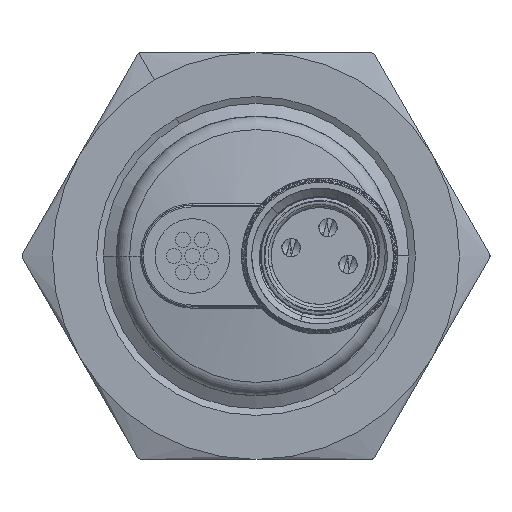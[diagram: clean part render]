
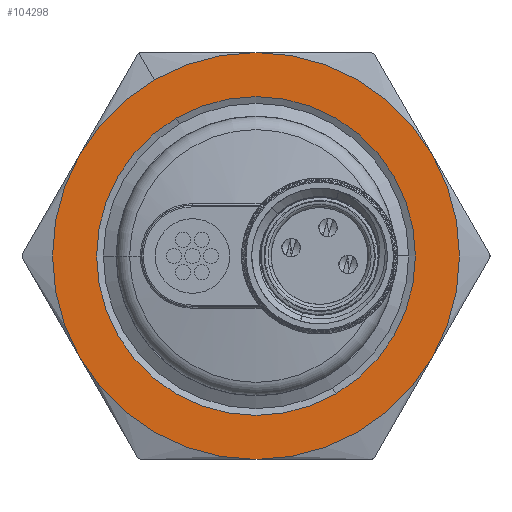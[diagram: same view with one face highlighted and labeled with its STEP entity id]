
A CAD part, left-side view. The second image highlights one B-rep face of the part: STEP entity #104298.
In plain terms, the highlighted planar face has unit normal (-1, 0, 0) as drawn and (0, 0, -1) by its records, which use the part's own axes.
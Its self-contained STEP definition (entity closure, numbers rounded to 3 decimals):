
#3016 = DIRECTION ( 'NONE',  ( -1., 0., 0. ) ) ;
#6669 = EDGE_CURVE ( 'NONE', #11871, #94911, #82048, .T. ) ;
#7314 = EDGE_CURVE ( 'NONE', #118412, #26884, #80630, .T. ) ;
#11611 = ORIENTED_EDGE ( 'NONE', *, *, #50794, .F. ) ;
#11757 = DIRECTION ( 'NONE',  ( -1., 0., 0. ) ) ;
#11871 = VERTEX_POINT ( 'NONE', #118198 ) ;
#12838 = CIRCLE ( 'NONE', #66332, 12. ) ;
#16561 = DIRECTION ( 'NONE',  ( -1., 0., 0. ) ) ;
#18160 = VERTEX_POINT ( 'NONE', #35797 ) ;
#19185 = FACE_OUTER_BOUND ( 'NONE', #49587, .T. ) ;
#19859 = CARTESIAN_POINT ( 'NONE',  ( 0., 0., 0. ) ) ;
#22875 = VERTEX_POINT ( 'NONE', #51895 ) ;
#23723 = DIRECTION ( 'NONE',  ( 0., 0., 1. ) ) ;
#25507 = DIRECTION ( 'NONE',  ( -1., 0., 0. ) ) ;
#26540 = EDGE_CURVE ( 'NONE', #100205, #45804, #126422, .T. ) ;
#26884 = VERTEX_POINT ( 'NONE', #74448 ) ;
#27134 = AXIS2_PLACEMENT_3D ( 'NONE', #19859, #64241, #109367 ) ;
#27319 = AXIS2_PLACEMENT_3D ( 'NONE', #100860, #23723, #68109 ) ;
#28941 = EDGE_LOOP ( 'NONE', ( #64994, #41458 ) ) ;
#29608 = CARTESIAN_POINT ( 'NONE',  ( 9.4, 0., 0. ) ) ;
#29619 = CIRCLE ( 'NONE', #27319, 12. ) ;
#32592 = ORIENTED_EDGE ( 'NONE', *, *, #131784, .F. ) ;
#32822 = AXIS2_PLACEMENT_3D ( 'NONE', #114721, #60739, #73177 ) ;
#32996 = FACE_BOUND ( 'NONE', #28941, .T. ) ;
#34325 = DIRECTION ( 'NONE',  ( 0., 0., 1. ) ) ;
#35797 = CARTESIAN_POINT ( 'NONE',  ( -10.392, 6., 0. ) ) ;
#41458 = ORIENTED_EDGE ( 'NONE', *, *, #99194, .F. ) ;
#45804 = VERTEX_POINT ( 'NONE', #118950 ) ;
#46956 = CARTESIAN_POINT ( 'NONE',  ( -10.392, -6., 0. ) ) ;
#49428 = CARTESIAN_POINT ( 'NONE',  ( 10.392, -6., 0. ) ) ;
#49587 = EDGE_LOOP ( 'NONE', ( #69732, #135005, #88019, #98502, #32592, #49673, #11611 ) ) ;
#49673 = ORIENTED_EDGE ( 'NONE', *, *, #128915, .F. ) ;
#50794 = EDGE_CURVE ( 'NONE', #45804, #133882, #116484, .T. ) ;
#51895 = CARTESIAN_POINT ( 'NONE',  ( -12., 0., 0. ) ) ;
#52593 = DIRECTION ( 'NONE',  ( 0., 0., -1. ) ) ;
#52925 = DIRECTION ( 'NONE',  ( 0., 0., 1. ) ) ;
#58206 = DIRECTION ( 'NONE',  ( 0., 0., -1. ) ) ;
#60739 = DIRECTION ( 'NONE',  ( 0., 0., 1. ) ) ;
#63558 = PLANE ( 'NONE',  #109060 ) ;
#63981 = CARTESIAN_POINT ( 'NONE',  ( 0., 0., 0. ) ) ;
#64241 = DIRECTION ( 'NONE',  ( 0., 0., 1. ) ) ;
#64994 = ORIENTED_EDGE ( 'NONE', *, *, #6669, .F. ) ;
#66332 = AXIS2_PLACEMENT_3D ( 'NONE', #134141, #34325, #16561 ) ;
#67630 = CARTESIAN_POINT ( 'NONE',  ( 0., 12., 0. ) ) ;
#68109 = DIRECTION ( 'NONE',  ( -1., 0., 0. ) ) ;
#69732 = ORIENTED_EDGE ( 'NONE', *, *, #26540, .F. ) ;
#73177 = DIRECTION ( 'NONE',  ( -1., 0., 0. ) ) ;
#73658 = CIRCLE ( 'NONE', #92240, 12. ) ;
#74448 = CARTESIAN_POINT ( 'NONE',  ( 0., -12., 0. ) ) ;
#75578 = AXIS2_PLACEMENT_3D ( 'NONE', #80129, #58206, #25507 ) ;
#80129 = CARTESIAN_POINT ( 'NONE',  ( 0., 0., 0. ) ) ;
#80266 = DIRECTION ( 'NONE',  ( 0., 0., 1. ) ) ;
#80630 = CIRCLE ( 'NONE', #27134, 12. ) ;
#82048 = CIRCLE ( 'NONE', #84347, 9.4 ) ;
#84347 = AXIS2_PLACEMENT_3D ( 'NONE', #123213, #91813, #11757 ) ;
#88019 = ORIENTED_EDGE ( 'NONE', *, *, #7314, .F. ) ;
#91813 = DIRECTION ( 'NONE',  ( 0., 0., -1. ) ) ;
#92240 = AXIS2_PLACEMENT_3D ( 'NONE', #108335, #52925, #97364 ) ;
#92456 = CIRCLE ( 'NONE', #134421, 12. ) ;
#92568 = EDGE_CURVE ( 'NONE', #22875, #118412, #73658, .T. ) ;
#94911 = VERTEX_POINT ( 'NONE', #29608 ) ;
#96191 = AXIS2_PLACEMENT_3D ( 'NONE', #63981, #118704, #130326 ) ;
#97030 = DIRECTION ( 'NONE',  ( 0., -1., 0. ) ) ;
#97364 = DIRECTION ( 'NONE',  ( -1., 0., 0. ) ) ;
#98502 = ORIENTED_EDGE ( 'NONE', *, *, #92568, .F. ) ;
#99194 = EDGE_CURVE ( 'NONE', #94911, #11871, #101024, .T. ) ;
#100205 = VERTEX_POINT ( 'NONE', #49428 ) ;
#100860 = CARTESIAN_POINT ( 'NONE',  ( 0., 0., 0. ) ) ;
#101024 = CIRCLE ( 'NONE', #75578, 9.4 ) ;
#104298 = ADVANCED_FACE ( 'NONE', ( #32996, #19185 ), #63558, .T. ) ;
#107975 = CARTESIAN_POINT ( 'NONE',  ( 0., 0., 0. ) ) ;
#108335 = CARTESIAN_POINT ( 'NONE',  ( 0., 0., 0. ) ) ;
#109060 = AXIS2_PLACEMENT_3D ( 'NONE', #107975, #52593, #97030 ) ;
#109367 = DIRECTION ( 'NONE',  ( -1., 0., 0. ) ) ;
#114721 = CARTESIAN_POINT ( 'NONE',  ( 0., 0., 0. ) ) ;
#116484 = CIRCLE ( 'NONE', #32822, 12. ) ;
#118198 = CARTESIAN_POINT ( 'NONE',  ( -9.4, 0., 0. ) ) ;
#118412 = VERTEX_POINT ( 'NONE', #46956 ) ;
#118704 = DIRECTION ( 'NONE',  ( 0., 0., 1. ) ) ;
#118950 = CARTESIAN_POINT ( 'NONE',  ( 10.392, 6., 0. ) ) ;
#123213 = CARTESIAN_POINT ( 'NONE',  ( 0., 0., 0. ) ) ;
#125858 = EDGE_CURVE ( 'NONE', #26884, #100205, #29619, .T. ) ;
#126422 = CIRCLE ( 'NONE', #96191, 12. ) ;
#128915 = EDGE_CURVE ( 'NONE', #133882, #18160, #12838, .T. ) ;
#130326 = DIRECTION ( 'NONE',  ( -1., 0., 0. ) ) ;
#131784 = EDGE_CURVE ( 'NONE', #18160, #22875, #92456, .T. ) ;
#133882 = VERTEX_POINT ( 'NONE', #67630 ) ;
#134141 = CARTESIAN_POINT ( 'NONE',  ( 0., 0., 0. ) ) ;
#134421 = AXIS2_PLACEMENT_3D ( 'NONE', #136428, #80266, #3016 ) ;
#135005 = ORIENTED_EDGE ( 'NONE', *, *, #125858, .F. ) ;
#136428 = CARTESIAN_POINT ( 'NONE',  ( 0., 0., 0. ) ) ;
